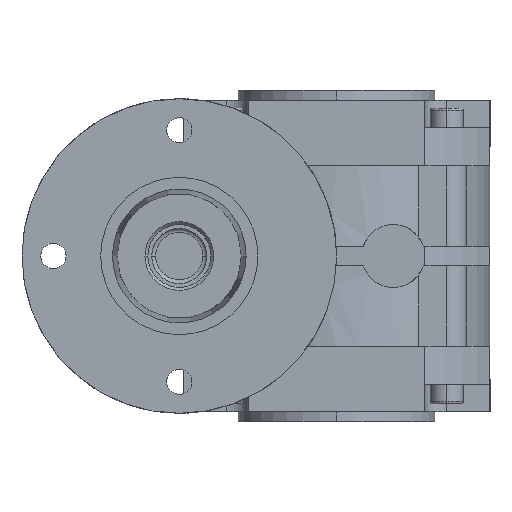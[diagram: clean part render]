
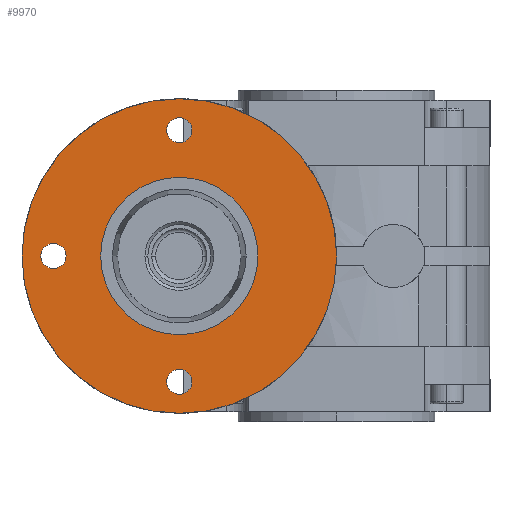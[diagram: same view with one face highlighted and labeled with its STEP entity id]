
A CAD part, left-side view. The second image highlights one B-rep face of the part: STEP entity #9970.
In plain terms, the highlighted planar face has unit normal (-1, 0, 0).
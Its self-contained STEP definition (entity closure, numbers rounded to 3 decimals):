
#86 = DIRECTION ( 'NONE',  ( 0., -1., 0. ) ) ;
#87 = DIRECTION ( 'NONE',  ( 1., 0., 0. ) ) ;
#88 = CARTESIAN_POINT ( 'NONE',  ( -48.7, 72., 0. ) ) ;
#89 = AXIS2_PLACEMENT_3D ( 'NONE', #88, #87, #86 ) ;
#95 = CIRCLE ( 'NONE', #138, 3.2 ) ;
#105 = CIRCLE ( 'NONE', #89, 3.2 ) ;
#135 = DIRECTION ( 'NONE',  ( 0., -1., 0. ) ) ;
#136 = DIRECTION ( 'NONE',  ( 1., 0., 0. ) ) ;
#137 = CARTESIAN_POINT ( 'NONE',  ( -48.7, 40., -32. ) ) ;
#138 = AXIS2_PLACEMENT_3D ( 'NONE', #137, #136, #135 ) ;
#822 = CARTESIAN_POINT ( 'NONE',  ( -48.7, 72., -3.2 ) ) ;
#836 = CARTESIAN_POINT ( 'NONE',  ( -48.7, 72., 3.2 ) ) ;
#1629 = ORIENTED_EDGE ( 'NONE', *, *, #6162, .T. ) ;
#3902 = CIRCLE ( 'NONE', #3949, 40. ) ;
#3947 = DIRECTION ( 'NONE',  ( 0., -1., 0. ) ) ;
#3948 = DIRECTION ( 'NONE',  ( -1., 0., 0. ) ) ;
#3949 = AXIS2_PLACEMENT_3D ( 'NONE', #3956, #3948, #3947 ) ;
#3956 = CARTESIAN_POINT ( 'NONE',  ( -48.7, 40., 0. ) ) ;
#4018 = CIRCLE ( 'NONE', #4020, 3.2 ) ;
#4019 = CARTESIAN_POINT ( 'NONE',  ( -48.7, 40., -32. ) ) ;
#4020 = AXIS2_PLACEMENT_3D ( 'NONE', #4019, #4071, #4070 ) ;
#4054 = DIRECTION ( 'NONE',  ( 0., -1., 0. ) ) ;
#4055 = DIRECTION ( 'NONE',  ( 1., 0., 0. ) ) ;
#4056 = CARTESIAN_POINT ( 'NONE',  ( -48.7, 40., 32. ) ) ;
#4057 = AXIS2_PLACEMENT_3D ( 'NONE', #4056, #4055, #4054 ) ;
#4058 = CIRCLE ( 'NONE', #4057, 3.2 ) ;
#4070 = DIRECTION ( 'NONE',  ( 0., -1., 0. ) ) ;
#4071 = DIRECTION ( 'NONE',  ( 1., 0., 0. ) ) ;
#4170 = DIRECTION ( 'NONE',  ( 1., 0., 0. ) ) ;
#4171 = CARTESIAN_POINT ( 'NONE',  ( -48.7, 72., 0. ) ) ;
#4172 = AXIS2_PLACEMENT_3D ( 'NONE', #4171, #4170, #4228 ) ;
#4173 = CIRCLE ( 'NONE', #4172, 3.2 ) ;
#4228 = DIRECTION ( 'NONE',  ( 0., -1., 0. ) ) ;
#4268 = DIRECTION ( 'NONE',  ( -1., 0., 0. ) ) ;
#4269 = CARTESIAN_POINT ( 'NONE',  ( -48.7, 40., 0. ) ) ;
#4306 = DIRECTION ( 'NONE',  ( 0., -1., 0. ) ) ;
#4307 = AXIS2_PLACEMENT_3D ( 'NONE', #4269, #4268, #4306 ) ;
#4309 = CARTESIAN_POINT ( 'NONE',  ( -48.7, 60., 0. ) ) ;
#4316 = CIRCLE ( 'NONE', #4307, 20. ) ;
#4446 = CARTESIAN_POINT ( 'NONE',  ( -48.7, 20., 0. ) ) ;
#6116 = EDGE_CURVE ( 'NONE', #8570, #11644, #3902, .T. ) ;
#6156 = EDGE_CURVE ( 'NONE', #11528, #11457, #4018, .T. ) ;
#6162 = EDGE_CURVE ( 'NONE', #11645, #8577, #4058, .T. ) ;
#6235 = EDGE_CURVE ( 'NONE', #12279, #12303, #4173, .T. ) ;
#6283 = EDGE_CURVE ( 'NONE', #6284, #6364, #4316, .T. ) ;
#6284 = VERTEX_POINT ( 'NONE', #4309 ) ;
#6364 = VERTEX_POINT ( 'NONE', #4446 ) ;
#8570 = VERTEX_POINT ( 'NONE', #8792 ) ;
#8577 = VERTEX_POINT ( 'NONE', #8795 ) ;
#8683 = ORIENTED_EDGE ( 'NONE', *, *, #6283, .F. ) ;
#8684 = ORIENTED_EDGE ( 'NONE', *, *, #11908, .T. ) ;
#8695 = ORIENTED_EDGE ( 'NONE', *, *, #11667, .T. ) ;
#8696 = ORIENTED_EDGE ( 'NONE', *, *, #11912, .T. ) ;
#8697 = ORIENTED_EDGE ( 'NONE', *, *, #8702, .F. ) ;
#8702 = EDGE_CURVE ( 'NONE', #6364, #6284, #9057, .T. ) ;
#8707 = ORIENTED_EDGE ( 'NONE', *, *, #6116, .T. ) ;
#8792 = CARTESIAN_POINT ( 'NONE',  ( -48.7, 80., 0. ) ) ;
#8795 = CARTESIAN_POINT ( 'NONE',  ( -48.7, 40., 35.2 ) ) ;
#9053 = DIRECTION ( 'NONE',  ( 0., -1., 0. ) ) ;
#9054 = DIRECTION ( 'NONE',  ( -1., 0., 0. ) ) ;
#9057 = CIRCLE ( 'NONE', #9059, 20. ) ;
#9058 = CARTESIAN_POINT ( 'NONE',  ( -48.7, 40., 0. ) ) ;
#9059 = AXIS2_PLACEMENT_3D ( 'NONE', #9058, #9054, #9053 ) ;
#9316 = DIRECTION ( 'NONE',  ( 0., -1., 0. ) ) ;
#9317 = DIRECTION ( 'NONE',  ( -1., 0., 0. ) ) ;
#9323 = FACE_BOUND ( 'NONE', #12358, .T. ) ;
#9325 = FACE_OUTER_BOUND ( 'NONE', #9811, .T. ) ;
#9326 = PLANE ( 'NONE',  #9328 ) ;
#9327 = FACE_BOUND ( 'NONE', #9478, .T. ) ;
#9328 = AXIS2_PLACEMENT_3D ( 'NONE', #9332, #9317, #9316 ) ;
#9330 = FACE_BOUND ( 'NONE', #11225, .T. ) ;
#9332 = CARTESIAN_POINT ( 'NONE',  ( -48.7, 80., 0. ) ) ;
#9333 = FACE_BOUND ( 'NONE', #9846, .T. ) ;
#9478 = EDGE_LOOP ( 'NONE', ( #8697, #8683 ) ) ;
#9811 = EDGE_LOOP ( 'NONE', ( #8707, #8695 ) ) ;
#9838 = ORIENTED_EDGE ( 'NONE', *, *, #6156, .T. ) ;
#9846 = EDGE_LOOP ( 'NONE', ( #10192, #1629 ) ) ;
#9970 = ADVANCED_FACE ( 'NONE', ( #9330, #9327, #9325, #9323, #9333 ), #9326, .T. ) ;
#10051 = CARTESIAN_POINT ( 'NONE',  ( -48.7, 40., -35.2 ) ) ;
#10192 = ORIENTED_EDGE ( 'NONE', *, *, #11622, .T. ) ;
#10287 = CARTESIAN_POINT ( 'NONE',  ( -48.7, 40., -28.8 ) ) ;
#10323 = ORIENTED_EDGE ( 'NONE', *, *, #6235, .T. ) ;
#10543 = DIRECTION ( 'NONE',  ( 0., -1., 0. ) ) ;
#10544 = DIRECTION ( 'NONE',  ( 1., 0., 0. ) ) ;
#10545 = CARTESIAN_POINT ( 'NONE',  ( -48.7, 40., 32. ) ) ;
#10553 = CIRCLE ( 'NONE', #10555, 3.2 ) ;
#10555 = AXIS2_PLACEMENT_3D ( 'NONE', #10545, #10544, #10543 ) ;
#10585 = CARTESIAN_POINT ( 'NONE',  ( -48.7, 40., 28.8 ) ) ;
#10597 = CARTESIAN_POINT ( 'NONE',  ( -48.7, 0., 0. ) ) ;
#10609 = CIRCLE ( 'NONE', #10661, 40. ) ;
#10658 = DIRECTION ( 'NONE',  ( 0., -1., 0. ) ) ;
#10659 = DIRECTION ( 'NONE',  ( -1., 0., 0. ) ) ;
#10660 = CARTESIAN_POINT ( 'NONE',  ( -48.7, 40., 0. ) ) ;
#10661 = AXIS2_PLACEMENT_3D ( 'NONE', #10660, #10659, #10658 ) ;
#11225 = EDGE_LOOP ( 'NONE', ( #8696, #9838 ) ) ;
#11457 = VERTEX_POINT ( 'NONE', #10287 ) ;
#11528 = VERTEX_POINT ( 'NONE', #10051 ) ;
#11622 = EDGE_CURVE ( 'NONE', #8577, #11645, #10553, .T. ) ;
#11644 = VERTEX_POINT ( 'NONE', #10597 ) ;
#11645 = VERTEX_POINT ( 'NONE', #10585 ) ;
#11667 = EDGE_CURVE ( 'NONE', #11644, #8570, #10609, .T. ) ;
#11908 = EDGE_CURVE ( 'NONE', #12303, #12279, #105, .T. ) ;
#11912 = EDGE_CURVE ( 'NONE', #11457, #11528, #95, .T. ) ;
#12279 = VERTEX_POINT ( 'NONE', #822 ) ;
#12303 = VERTEX_POINT ( 'NONE', #836 ) ;
#12358 = EDGE_LOOP ( 'NONE', ( #8684, #10323 ) ) ;
